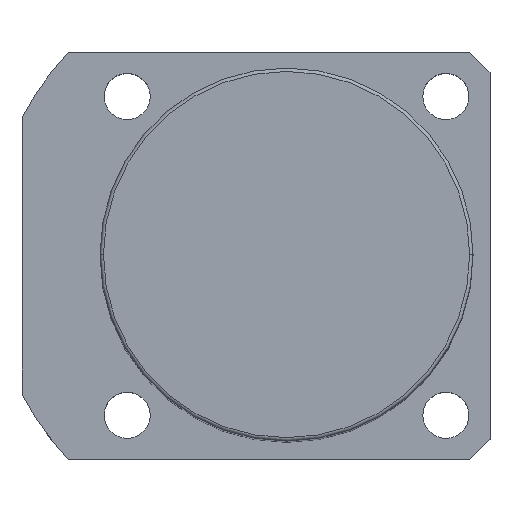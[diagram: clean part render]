
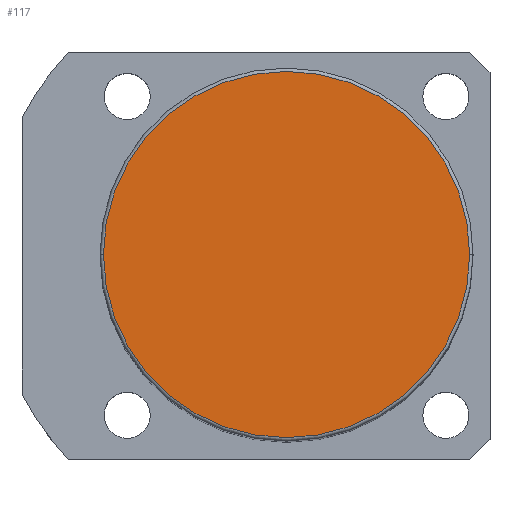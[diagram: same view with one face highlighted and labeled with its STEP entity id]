
A CAD part, top view. The second image highlights one B-rep face of the part: STEP entity #117.
In plain terms, the highlighted planar face has unit normal (0, 0, 1).
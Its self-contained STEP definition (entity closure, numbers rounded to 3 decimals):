
#19 = CARTESIAN_POINT ( 'NONE',  ( 27., 0., 121. ) ) ;
#25 = DIRECTION ( 'NONE',  ( 0., 0., 1. ) ) ;
#88 = ORIENTED_EDGE ( 'NONE', *, *, #96, .T. ) ;
#96 = EDGE_CURVE ( 'NONE', #1437, #993, #194, .T. ) ;
#117 = ADVANCED_FACE ( 'NONE', ( #398 ), #2154, .T. ) ;
#125 = AXIS2_PLACEMENT_3D ( 'NONE', #2156, #1807, #821 ) ;
#141 = ORIENTED_EDGE ( 'NONE', *, *, #1986, .T. ) ;
#194 = CIRCLE ( 'NONE', #463, 27. ) ;
#398 = FACE_OUTER_BOUND ( 'NONE', #1116, .T. ) ;
#463 = AXIS2_PLACEMENT_3D ( 'NONE', #1647, #1815, #649 ) ;
#649 = DIRECTION ( 'NONE',  ( 1., 0., 0. ) ) ;
#821 = DIRECTION ( 'NONE',  ( 1., 0., 0. ) ) ;
#993 = VERTEX_POINT ( 'NONE', #1183 ) ;
#1066 = AXIS2_PLACEMENT_3D ( 'NONE', #1883, #25, #1384 ) ;
#1116 = EDGE_LOOP ( 'NONE', ( #88, #141 ) ) ;
#1183 = CARTESIAN_POINT ( 'NONE',  ( -27., 0., 121. ) ) ;
#1384 = DIRECTION ( 'NONE',  ( 1., 0., 0. ) ) ;
#1437 = VERTEX_POINT ( 'NONE', #19 ) ;
#1452 = CIRCLE ( 'NONE', #1066, 27. ) ;
#1647 = CARTESIAN_POINT ( 'NONE',  ( 0., 0., 121. ) ) ;
#1807 = DIRECTION ( 'NONE',  ( 0., 0., 1. ) ) ;
#1815 = DIRECTION ( 'NONE',  ( 0., 0., 1. ) ) ;
#1883 = CARTESIAN_POINT ( 'NONE',  ( 0., 0., 121. ) ) ;
#1986 = EDGE_CURVE ( 'NONE', #993, #1437, #1452, .T. ) ;
#2154 = PLANE ( 'NONE',  #125 ) ;
#2156 = CARTESIAN_POINT ( 'NONE',  ( 0., 0., 121. ) ) ;
